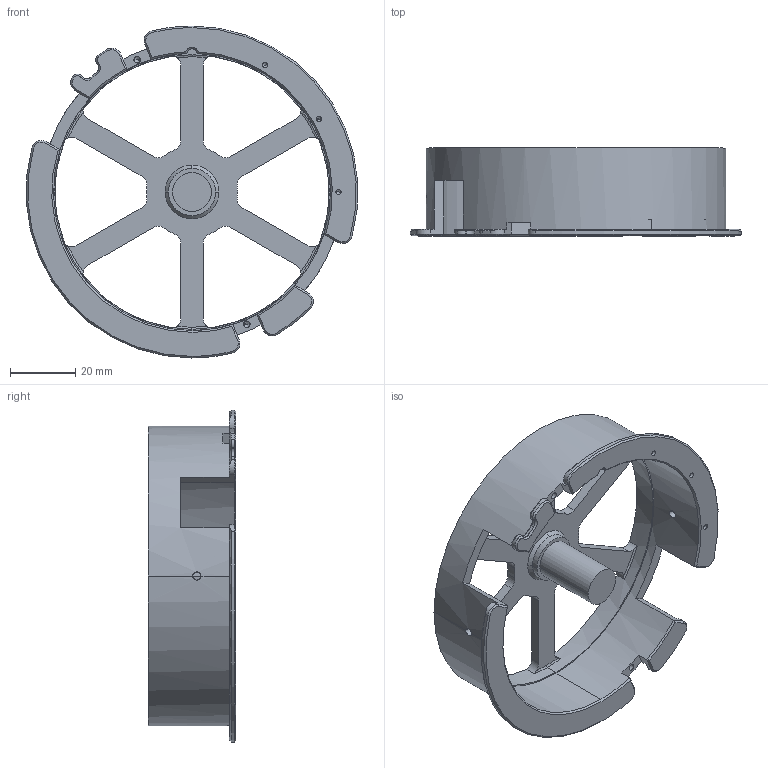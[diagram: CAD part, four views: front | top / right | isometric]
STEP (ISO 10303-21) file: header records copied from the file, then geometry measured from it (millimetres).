
FILE_DESCRIPTION (( 'STEP AP203' ), '1' );
FILE_NAME ('ri80霍尔测试外壳-返修后.STEP', '2024-07-10T01:09:00', ( '' ), ( '' ), 'SwSTEP 2.0', 'SolidWorks 2022', '' );
FILE_SCHEMA (( 'CONFIG_CONTROL_DESIGN' ));
Length unit declared in the file: millimetre
Products named in the file (1): ri80霍尔测试外壳-返修后
Bounding box: 101.79 x 27 x 102 mm (x, y, z)
Volume: 34556.9 mm3; surface area: 24097.6 mm2
Topology: 1 solids, 1 shells, 192 faces, 524 edges, 324 vertices
Faces by surface type: cylinder 76, cone 57, plane 51, torus 8
Entity records: 6462 total; most frequent: CARTESIAN_POINT 1427, DIRECTION 1103, ORIENTED_EDGE 1028, EDGE_CURVE 514, AXIS2_PLACEMENT_3D 432, VERTEX_POINT 324, LINE 239, VECTOR 239
